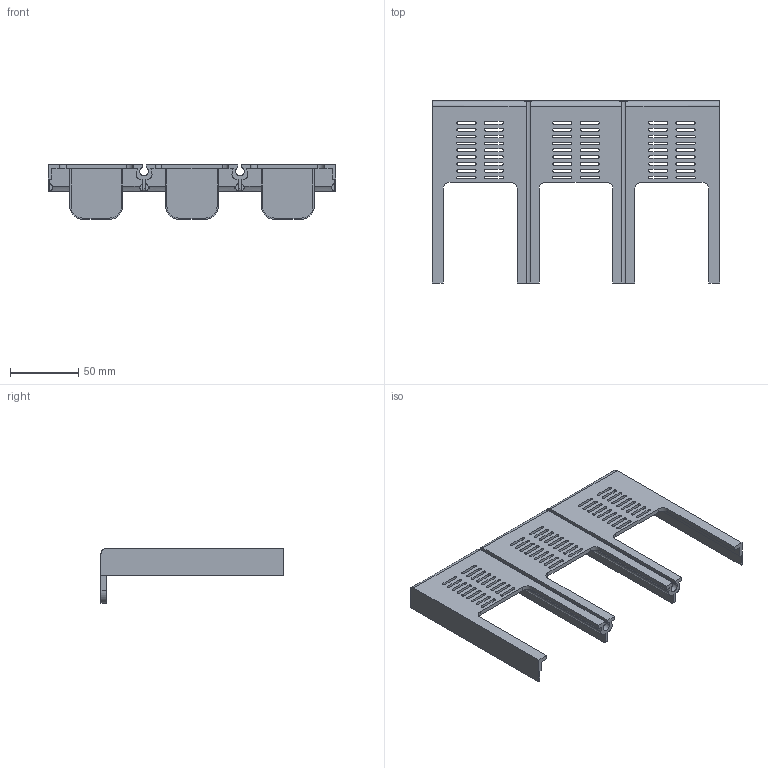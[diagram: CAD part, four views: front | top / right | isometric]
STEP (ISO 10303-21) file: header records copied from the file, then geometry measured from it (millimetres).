
FILE_DESCRIPTION (( 'STEP AP214' ), '1' );
FILE_NAME ('!TGM1NE-1600-3P 孰屐祉 牮觇.STEP', '2025-12-10T13:33:45', ( '' ), ( '' ), 'SwSTEP 2.0', 'SolidWorks 2024', '' );
FILE_SCHEMA (( 'AUTOMOTIVE_DESIGN' ));
Length unit declared in the file: millimetre
Products named in the file (3): 8TZD_742_6486_1_1.stp; !TGM1NE-1600-3P Клеммные крышки; !TGM1NE-1600-3P Клеммные крышки.stp
Assembly tree (2 placements, depth 3):
  !TGM1NE-1600-3P Клеммные крышки
    !TGM1NE-1600-3P Клеммные крышки.stp
      8TZD_742_6486_1_1.stp
Bounding box: 210 x 133 x 40 mm (x, y, z)
Volume: 84243.4 mm3; surface area: 71521.4 mm2
Topology: 1 solids, 1 shells, 412 faces, 1221 edges, 811 vertices
Faces by surface type: plane 212, cylinder 192, torus 4, bspline 4
Entity records: 15492 total; most frequent: CARTESIAN_POINT 3857, ORIENTED_EDGE 2442, DIRECTION 2412, EDGE_CURVE 1221, VERTEX_POINT 811, AXIS2_PLACEMENT_3D 809, VECTOR 794, LINE 794
